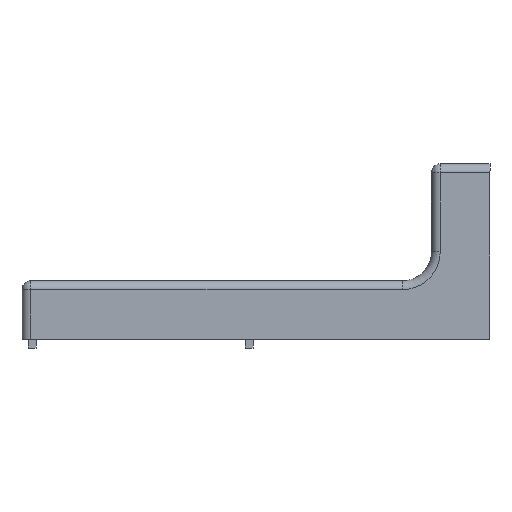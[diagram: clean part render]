
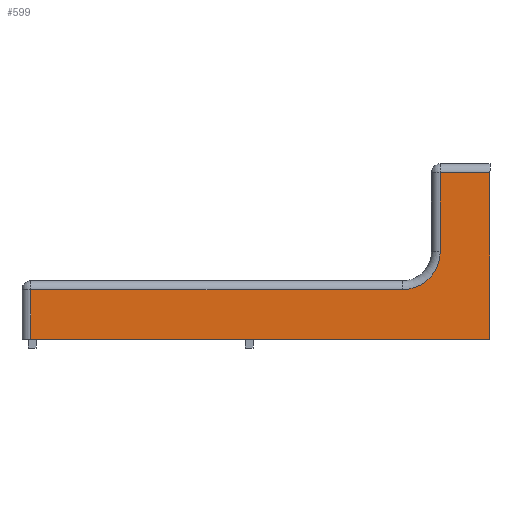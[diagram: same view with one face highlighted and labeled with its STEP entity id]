
A CAD part, left-side view. The second image highlights one B-rep face of the part: STEP entity #599.
In plain terms, the highlighted planar face has unit normal (-1, 0, 0).
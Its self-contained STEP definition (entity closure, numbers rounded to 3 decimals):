
#437 = VECTOR ( 'NONE', #3681, 1000. ) ;
#599 = ADVANCED_FACE ( 'NONE', ( #3397 ), #3596, .T. ) ;
#660 = AXIS2_PLACEMENT_3D ( 'NONE', #1759, #4010, #2080 ) ;
#838 = CARTESIAN_POINT ( 'NONE',  ( -20., 17., 30. ) ) ;
#949 = LINE ( 'NONE', #1273, #2545 ) ;
#1000 = CARTESIAN_POINT ( 'NONE',  ( -20., 20., 57. ) ) ;
#1025 = DIRECTION ( 'NONE',  ( 0., 0., -1. ) ) ;
#1094 = CARTESIAN_POINT ( 'NONE',  ( -20., 0., 0. ) ) ;
#1147 = VECTOR ( 'NONE', #2843, 1000. ) ;
#1210 = EDGE_CURVE ( 'NONE', #2521, #2205, #3220, .T. ) ;
#1273 = CARTESIAN_POINT ( 'NONE',  ( -20., 157., 0. ) ) ;
#1294 = LINE ( 'NONE', #1333, #2891 ) ;
#1333 = CARTESIAN_POINT ( 'NONE',  ( -20., 0., 0. ) ) ;
#1407 = EDGE_CURVE ( 'NONE', #2205, #1737, #2882, .T. ) ;
#1421 = CARTESIAN_POINT ( 'NONE',  ( -20., 160., 17. ) ) ;
#1474 = CARTESIAN_POINT ( 'NONE',  ( -20., 157., 0. ) ) ;
#1568 = VERTEX_POINT ( 'NONE', #2652 ) ;
#1674 = CARTESIAN_POINT ( 'NONE',  ( -20., 0., 0. ) ) ;
#1737 = VERTEX_POINT ( 'NONE', #3625 ) ;
#1759 = CARTESIAN_POINT ( 'NONE',  ( -20., 30., 30. ) ) ;
#1879 = VERTEX_POINT ( 'NONE', #2598 ) ;
#1979 = LINE ( 'NONE', #4144, #1147 ) ;
#2002 = DIRECTION ( 'NONE',  ( 0., 0., 1. ) ) ;
#2059 = DIRECTION ( 'NONE',  ( 0., 1., 0. ) ) ;
#2076 = CARTESIAN_POINT ( 'NONE',  ( -20., 0., 0. ) ) ;
#2080 = DIRECTION ( 'NONE',  ( 0., 0., 1. ) ) ;
#2089 = ORIENTED_EDGE ( 'NONE', *, *, #1407, .T. ) ;
#2106 = EDGE_CURVE ( 'NONE', #1568, #2468, #1294, .T. ) ;
#2205 = VERTEX_POINT ( 'NONE', #3631 ) ;
#2256 = ORIENTED_EDGE ( 'NONE', *, *, #2106, .F. ) ;
#2468 = VERTEX_POINT ( 'NONE', #2076 ) ;
#2521 = VERTEX_POINT ( 'NONE', #838 ) ;
#2545 = VECTOR ( 'NONE', #3186, 1000. ) ;
#2598 = CARTESIAN_POINT ( 'NONE',  ( -20., 17., 57. ) ) ;
#2652 = CARTESIAN_POINT ( 'NONE',  ( -20., 0., 57. ) ) ;
#2691 = LINE ( 'NONE', #1094, #3345 ) ;
#2774 = ORIENTED_EDGE ( 'NONE', *, *, #3939, .F. ) ;
#2842 = ORIENTED_EDGE ( 'NONE', *, *, #3812, .T. ) ;
#2843 = DIRECTION ( 'NONE',  ( 0., 0., -1. ) ) ;
#2882 = LINE ( 'NONE', #1421, #437 ) ;
#2891 = VECTOR ( 'NONE', #1025, 1000. ) ;
#2928 = EDGE_LOOP ( 'NONE', ( #2256, #2842, #3078, #3125, #2089, #3790, #2774 ) ) ;
#3078 = ORIENTED_EDGE ( 'NONE', *, *, #3651, .T. ) ;
#3125 = ORIENTED_EDGE ( 'NONE', *, *, #1210, .T. ) ;
#3186 = DIRECTION ( 'NONE',  ( 0., 0., -1. ) ) ;
#3220 = CIRCLE ( 'NONE', #660, 13. ) ;
#3314 = VERTEX_POINT ( 'NONE', #1474 ) ;
#3345 = VECTOR ( 'NONE', #2059, 1000. ) ;
#3397 = FACE_OUTER_BOUND ( 'NONE', #2928, .T. ) ;
#3398 = LINE ( 'NONE', #1000, #4067 ) ;
#3422 = AXIS2_PLACEMENT_3D ( 'NONE', #1674, #3929, #2002 ) ;
#3550 = DIRECTION ( 'NONE',  ( 0., 1., 0. ) ) ;
#3596 = PLANE ( 'NONE',  #3422 ) ;
#3625 = CARTESIAN_POINT ( 'NONE',  ( -20., 157., 17. ) ) ;
#3631 = CARTESIAN_POINT ( 'NONE',  ( -20., 30., 17. ) ) ;
#3651 = EDGE_CURVE ( 'NONE', #1879, #2521, #1979, .T. ) ;
#3681 = DIRECTION ( 'NONE',  ( 0., 1., 0. ) ) ;
#3748 = EDGE_CURVE ( 'NONE', #1737, #3314, #949, .T. ) ;
#3790 = ORIENTED_EDGE ( 'NONE', *, *, #3748, .T. ) ;
#3812 = EDGE_CURVE ( 'NONE', #1568, #1879, #3398, .T. ) ;
#3929 = DIRECTION ( 'NONE',  ( -1., 0., 0. ) ) ;
#3939 = EDGE_CURVE ( 'NONE', #2468, #3314, #2691, .T. ) ;
#4010 = DIRECTION ( 'NONE',  ( 1., 0., 0. ) ) ;
#4067 = VECTOR ( 'NONE', #3550, 1000. ) ;
#4144 = CARTESIAN_POINT ( 'NONE',  ( -20., 17., 30. ) ) ;
